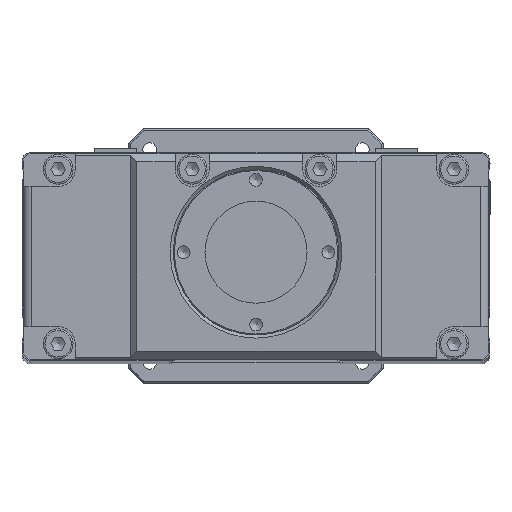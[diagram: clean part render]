
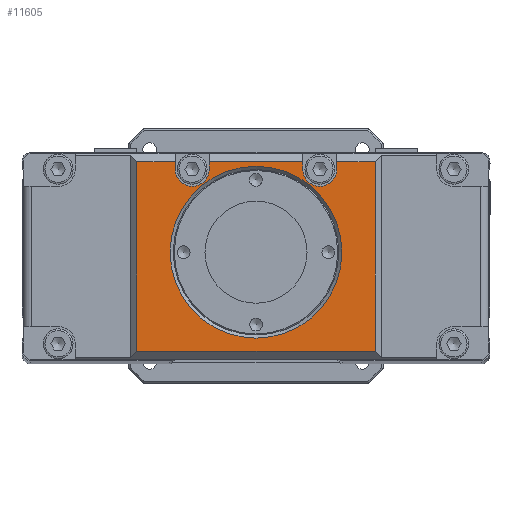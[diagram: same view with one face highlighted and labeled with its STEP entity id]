
A CAD part, top view. The second image highlights one B-rep face of the part: STEP entity #11605.
In plain terms, the highlighted planar face has unit normal (0, 0, 1).
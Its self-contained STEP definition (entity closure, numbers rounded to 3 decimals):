
#11293=CARTESIAN_POINT('',(-10.5,22.25,1038.0));
#11294=VERTEX_POINT('',#11293);
#11301=CARTESIAN_POINT('',(11.5,22.25,1038.0));
#11302=VERTEX_POINT('',#11301);
#11303=CARTESIAN_POINT('',(-10.5,22.25,1038.0));
#11304=DIRECTION('',(1.0,0.0,0.0));
#11305=VECTOR('',#11304,22.);
#11306=LINE('',#11303,#11305);
#11307=EDGE_CURVE('',#11294,#11302,#11306,.T.);
#11348=CARTESIAN_POINT('',(-10.5,20.5,1038.0));
#11349=VERTEX_POINT('',#11348);
#11356=CARTESIAN_POINT('',(-10.5,22.25,1038.0));
#11357=DIRECTION('',(0.0,-1.0,0.0));
#11358=VECTOR('',#11357,1.75);
#11359=LINE('',#11356,#11358);
#11360=EDGE_CURVE('',#11294,#11349,#11359,.T.);
#11481=CARTESIAN_POINT('',(19.5,22.25,1038.0));
#11482=VERTEX_POINT('',#11481);
#11489=CARTESIAN_POINT('',(28.5,22.25,1038.0));
#11490=VERTEX_POINT('',#11489);
#11491=CARTESIAN_POINT('',(19.5,22.25,1038.0));
#11492=DIRECTION('',(1.0,0.0,0.0));
#11493=VECTOR('',#11492,9.);
#11494=LINE('',#11491,#11493);
#11495=EDGE_CURVE('',#11482,#11490,#11494,.T.);
#11514=CARTESIAN_POINT('',(28.5,0.,1038.0));
#11515=DIRECTION('',(0.0,0.0,1.0));
#11516=DIRECTION('',(1.0,0.0,0.0));
#11517=AXIS2_PLACEMENT_3D('',#11514,#11515,#11516);
#11518=PLANE('',#11517);
#11519=ORIENTED_EDGE('',*,*,#11307,.F.);
#11520=ORIENTED_EDGE('',*,*,#11360,.T.);
#11521=CARTESIAN_POINT('',(-18.5,20.5,1038.0));
#11522=VERTEX_POINT('',#11521);
#11523=CARTESIAN_POINT('',(-14.5,20.5,1038.0));
#11524=DIRECTION('',(0.0,0.0,-1.0));
#11525=DIRECTION('',(1.0,0.0,0.0));
#11526=AXIS2_PLACEMENT_3D('',#11523,#11524,#11525);
#11527=CIRCLE('',#11526,4.0);
#11528=EDGE_CURVE('',#11349,#11522,#11527,.T.);
#11529=ORIENTED_EDGE('',*,*,#11528,.T.);
#11530=CARTESIAN_POINT('',(-18.5,22.25,1038.0));
#11531=VERTEX_POINT('',#11530);
#11532=CARTESIAN_POINT('',(-18.5,20.5,1038.0));
#11533=DIRECTION('',(0.0,1.0,0.0));
#11534=VECTOR('',#11533,1.75);
#11535=LINE('',#11532,#11534);
#11536=EDGE_CURVE('',#11522,#11531,#11535,.T.);
#11537=ORIENTED_EDGE('',*,*,#11536,.T.);
#11538=CARTESIAN_POINT('',(-27.5,22.25,1038.0));
#11539=VERTEX_POINT('',#11538);
#11540=CARTESIAN_POINT('',(-27.5,22.25,1038.0));
#11541=DIRECTION('',(1.0,0.0,0.0));
#11542=VECTOR('',#11541,9.);
#11543=LINE('',#11540,#11542);
#11544=EDGE_CURVE('',#11539,#11531,#11543,.T.);
#11545=ORIENTED_EDGE('',*,*,#11544,.F.);
#11546=CARTESIAN_POINT('',(-27.5,-22.25,1038.0));
#11547=VERTEX_POINT('',#11546);
#11548=CARTESIAN_POINT('',(-27.5,-22.25,1038.0));
#11549=DIRECTION('',(0.0,1.0,0.0));
#11550=VECTOR('',#11549,44.5);
#11551=LINE('',#11548,#11550);
#11552=EDGE_CURVE('',#11547,#11539,#11551,.T.);
#11553=ORIENTED_EDGE('',*,*,#11552,.F.);
#11554=CARTESIAN_POINT('',(28.5,-22.25,1038.0));
#11555=VERTEX_POINT('',#11554);
#11556=CARTESIAN_POINT('',(28.5,-22.25,1038.0));
#11557=DIRECTION('',(-1.0,0.0,0.0));
#11558=VECTOR('',#11557,56.);
#11559=LINE('',#11556,#11558);
#11560=EDGE_CURVE('',#11555,#11547,#11559,.T.);
#11561=ORIENTED_EDGE('',*,*,#11560,.F.);
#11562=CARTESIAN_POINT('',(28.5,-22.25,1038.0));
#11563=DIRECTION('',(0.0,1.0,0.0));
#11564=VECTOR('',#11563,44.5);
#11565=LINE('',#11562,#11564);
#11566=EDGE_CURVE('',#11555,#11490,#11565,.T.);
#11567=ORIENTED_EDGE('',*,*,#11566,.T.);
#11568=ORIENTED_EDGE('',*,*,#11495,.F.);
#11569=CARTESIAN_POINT('',(19.5,20.5,1038.0));
#11570=VERTEX_POINT('',#11569);
#11571=CARTESIAN_POINT('',(19.5,22.25,1038.0));
#11572=DIRECTION('',(0.0,-1.0,0.0));
#11573=VECTOR('',#11572,1.75);
#11574=LINE('',#11571,#11573);
#11575=EDGE_CURVE('',#11482,#11570,#11574,.T.);
#11576=ORIENTED_EDGE('',*,*,#11575,.T.);
#11577=CARTESIAN_POINT('',(11.5,20.5,1038.0));
#11578=VERTEX_POINT('',#11577);
#11579=CARTESIAN_POINT('',(15.5,20.5,1038.0));
#11580=DIRECTION('',(0.0,0.0,-1.0));
#11581=DIRECTION('',(1.0,0.0,0.0));
#11582=AXIS2_PLACEMENT_3D('',#11579,#11580,#11581);
#11583=CIRCLE('',#11582,4.0);
#11584=EDGE_CURVE('',#11570,#11578,#11583,.T.);
#11585=ORIENTED_EDGE('',*,*,#11584,.T.);
#11586=CARTESIAN_POINT('',(11.5,20.5,1038.0));
#11587=DIRECTION('',(0.0,1.0,0.0));
#11588=VECTOR('',#11587,1.75);
#11589=LINE('',#11586,#11588);
#11590=EDGE_CURVE('',#11578,#11302,#11589,.T.);
#11591=ORIENTED_EDGE('',*,*,#11590,.T.);
#11592=EDGE_LOOP('',(#11519,#11520,#11529,#11537,#11545,#11553,#11561,#11567,#11568,#11576,#11585,#11591));
#11593=FACE_OUTER_BOUND('',#11592,.T.);
#11594=CARTESIAN_POINT('',(20.688,1.,1038.0));
#11595=VERTEX_POINT('',#11594);
#11596=CARTESIAN_POINT('',(0.5,1.,1038.0));
#11597=DIRECTION('',(0.0,0.0,1.0));
#11598=DIRECTION('',(-1.0,0.0,0.0));
#11599=AXIS2_PLACEMENT_3D('',#11596,#11597,#11598);
#11600=CIRCLE('',#11599,20.188);
#11601=EDGE_CURVE('',#11595,#11595,#11600,.T.);
#11602=ORIENTED_EDGE('',*,*,#11601,.F.);
#11603=EDGE_LOOP('',(#11602));
#11604=FACE_BOUND('',#11603,.T.);
#11605=ADVANCED_FACE('',(#11593,#11604),#11518,.T.);
